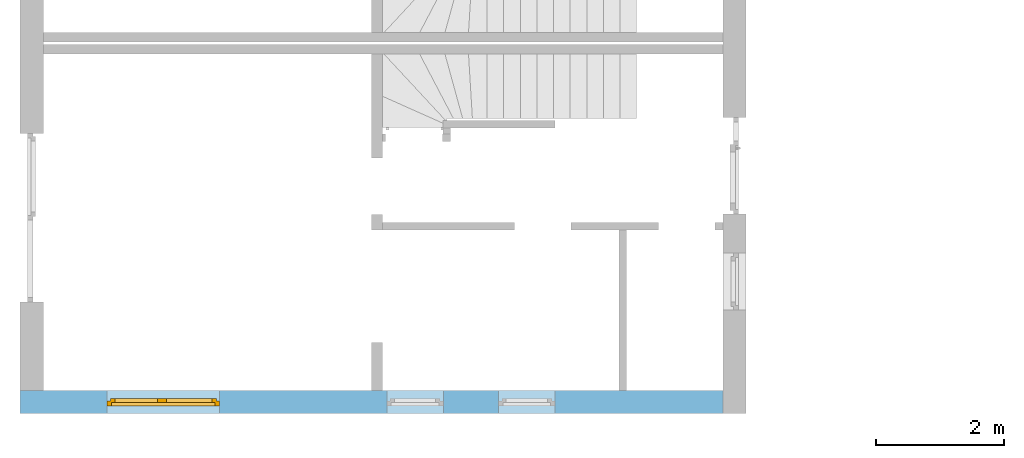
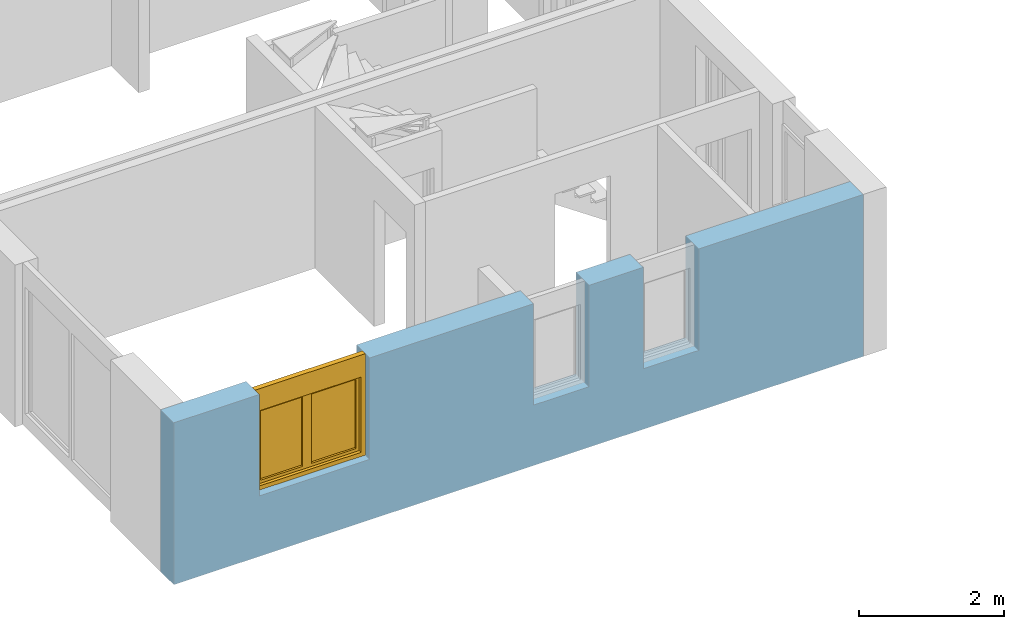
# One storey, part 5 of 41: 1 window, 3 openings, plus 1 element that does not belong to this part.
"""IFC2X3 building model written with IfcOpenShell, lengths in millimetres."""

from ifc_helpers import new_model, entity, si_unit, converted_unit, frame, frame_2d, origin, origin_with_axes, place, context, subcontext, project, spatial, rectangle, extrude, faceted_brep, material, layer, layer_set, layer_usage, type_object, element, fill, save


model = new_model("IFC2X3")

# Units and contexts
model_context = context("Model", 3, precision=1e-05, world=origin())
body_context = subcontext(model_context, "Body", "Model", "MODEL_VIEW")
ifc_project = project(units=[si_unit("LENGTHUNIT", "METRE", prefix="MILLI"), converted_unit("PLANEANGLEUNIT", "DEGREE", entity("IfcPlaneAngleMeasure", 0.0174532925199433), si_unit("PLANEANGLEUNIT", "RADIAN"), dimensions=[0, 0, 0, 0, 0, 0, 0]), si_unit("AREAUNIT", "SQUARE_METRE"), si_unit("VOLUMEUNIT", "CUBIC_METRE")], contexts=[model_context])

# Building, storey
building_placement = place(None, origin())
building = spatial("IfcBuilding", under=ifc_project, at=building_placement, Name="Gebäude", CompositionType="ELEMENT")
storey_placement = place(building_placement, frame((0.0, 0.0, -200.0), z_axis=(0.0, 0.0, 1.0), x_axis=(1.0, 0.0, 0.0)))
storey = spatial("IfcBuildingStorey", under=building, at=storey_placement, Name="EG.- Grundriss", CompositionType="ELEMENT", Elevation=-200.0)

# Wall, openings, window
ifc_material_1 = material(Name="Poroton")
ifc_layer = layer(ifc_material_1, 365.0000000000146)
ifc_layer_set = layer_set([ifc_layer])
ifc_layer_usage = layer_usage(ifc_layer_set, "AXIS2", "POSITIVE", 0.0)
wall_placement = place(storey_placement, frame((130992.7928067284, 125274.8877324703, 0.0), z_axis=(0.0, 0.0, 1.0), x_axis=(1.0, -2.749253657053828e-11, 0.0)))
wall = element("IfcWallStandardCase", 1, at=wall_placement, inside=storey, material=ifc_layer_usage, Name="<Unnamed Element>", context=body_context, shape_type="SweptSolid", body=[
    extrude(rectangle(XDim=10999.99999999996, YDim=365.0000000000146, at=frame_2d((5499.999999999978, 182.5000000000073), x_axis=(1.0, 0.0))), origin_with_axes(), (0.0, 0.0, 1.0), 2730.0),
])
opening_1_placement = place(wall_placement, frame((7489.999999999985, -3.477907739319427e-11, 1020.0), z_axis=(0.0, 1.0, 0.0), x_axis=(0.0, 0.0, 1.0)))
element("IfcOpeningElement", 2, at=opening_1_placement, cuts=wall, Name="Fensteröffnung", ObjectType="Opening", context=body_context, shape_type="SweptSolid", body=[
    extrude(rectangle(XDim=1710.0, YDim=885.0, at=frame_2d((855.0, 442.5), x_axis=(1.0, 0.0))), origin_with_axes(), (0.0, 0.0, 1.0), 365.0000000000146),
])
opening_2_placement = place(wall_placement, frame((5739.999999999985, -1.658918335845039e-11, 1020.0), z_axis=(0.0, 1.0, 0.0), x_axis=(0.0, 0.0, 1.0)))
element("IfcOpeningElement", 3, at=opening_2_placement, cuts=wall, Name="Fensteröffnung", ObjectType="Opening", context=body_context, shape_type="SweptSolid", body=[
    extrude(rectangle(XDim=1710.0, YDim=885.0, at=frame_2d((855.0, 442.5), x_axis=(1.0, 0.0))), origin_with_axes(), (0.0, 0.0, 1.0), 365.0000000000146),
])
opening_3_placement = place(wall_placement, frame((1364.999999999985, -7.494236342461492e-12, 1020.0), z_axis=(0.0, 1.0, 0.0), x_axis=(0.0, 0.0, 1.0)))
opening_3 = element("IfcOpeningElement", 4, at=opening_3_placement, cuts=wall, Name="Fensteröffnung", ObjectType="Opening", context=body_context, shape_type="SweptSolid", body=[
    extrude(rectangle(XDim=1710.0, YDim=1760.0, at=frame_2d((854.9999999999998, 880.0), x_axis=(1.0, 0.0))), origin_with_axes(), (0.0, 0.0, 1.0), 365.0000000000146),
])
ifc_material_2 = material()
window_style = type_object("IfcWindowStyle", Name="Fenster", ConstructionType="NOTDEFINED", OperationType="USERDEFINED", ParameterTakesPrecedence=False, Sizeable=False)
window_placement = place(opening_3_placement, frame((0.0, 0.0, 0.0), z_axis=(1.0, 0.0, 0.0), x_axis=(0.0, 1.0, 0.0)))
window = element("IfcWindow", 5, at=window_placement, inside=storey, type_object=window_style, material=ifc_material_2, Name="Fenster", OverallHeight=1710.0, OverallWidth=1760.0, context=body_context, shape_type="Brep", body=[
    faceted_brep([(-1.224022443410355e-08, 200.0000000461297, 1710.0), (-1.224022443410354e-08, 200.0000000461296, -2.449293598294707e-15), (69.99999998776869, 200.0000000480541, -2.449293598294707e-15), (69.99999998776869, 200.0000000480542, 1710.0), (-1.004082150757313e-08, 120.0000000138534, 2.449293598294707e-15), (-1.004082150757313e-08, 120.0000000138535, 1710.0), (69.99999998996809, 120.000000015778, 1710.0), (69.99999998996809, 120.0000000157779, 2.449293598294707e-15), (-1.224022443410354e-08, 200.0000000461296, -2.449293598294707e-15), (-1.224022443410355e-08, 200.0000000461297, 1710.0), (-1.004082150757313e-08, 120.0000000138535, 1710.0), (-1.004082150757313e-08, 120.0000000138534, 2.449293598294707e-15), (69.99999998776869, 200.0000000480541, -2.449293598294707e-15), (-1.224022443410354e-08, 200.0000000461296, -2.449293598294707e-15), (-1.004082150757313e-08, 120.0000000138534, 2.449293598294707e-15), (69.99999998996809, 120.0000000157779, 2.449293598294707e-15), (69.99999998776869, 200.0000000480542, 1710.0), (69.99999998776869, 200.0000000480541, -2.449293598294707e-15), (69.99999998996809, 120.0000000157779, 2.449293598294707e-15), (69.99999998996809, 120.000000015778, 1710.0), (-1.224022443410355e-08, 200.0000000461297, 1710.0), (69.99999998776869, 200.0000000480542, 1710.0), (69.99999998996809, 120.000000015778, 1710.0), (-1.004082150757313e-08, 120.0000000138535, 1710.0)], [[[0, 1, 2, 3]], [[4, 5, 6, 7]], [[8, 9, 10, 11]], [[12, 13, 14, 15]], [[16, 17, 18, 19]], [[20, 21, 22, 23]]], orient=[[False], [False], [False], [False], [False], [False]]),
    faceted_brep([(1689.999999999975, 200.0000000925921, 1710.0), (1689.999999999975, 200.000000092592, -2.449293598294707e-15), (1759.999999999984, 200.0000000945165, -2.449293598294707e-15), (1759.999999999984, 200.0000000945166, 1710.0), (1690.000000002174, 120.0000000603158, 2.449293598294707e-15), (1690.000000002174, 120.0000000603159, 1710.0), (1760.000000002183, 120.0000000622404, 1710.0), (1760.000000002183, 120.0000000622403, 2.449293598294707e-15), (1689.999999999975, 200.000000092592, -2.449293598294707e-15), (1689.999999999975, 200.0000000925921, 1710.0), (1690.000000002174, 120.0000000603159, 1710.0), (1690.000000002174, 120.0000000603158, 2.449293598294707e-15), (1759.999999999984, 200.0000000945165, -2.449293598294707e-15), (1689.999999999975, 200.000000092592, -2.449293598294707e-15), (1690.000000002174, 120.0000000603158, 2.449293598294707e-15), (1760.000000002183, 120.0000000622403, 2.449293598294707e-15), (1759.999999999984, 200.0000000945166, 1710.0), (1759.999999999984, 200.0000000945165, -2.449293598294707e-15), (1760.000000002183, 120.0000000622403, 2.449293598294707e-15), (1760.000000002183, 120.0000000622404, 1710.0), (1689.999999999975, 200.0000000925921, 1710.0), (1759.999999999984, 200.0000000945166, 1710.0), (1760.000000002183, 120.0000000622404, 1710.0), (1690.000000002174, 120.0000000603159, 1710.0)], [[[0, 1, 2, 3]], [[4, 5, 6, 7]], [[8, 9, 10, 11]], [[12, 13, 14, 15]], [[16, 17, 18, 19]], [[20, 21, 22, 23]]], orient=[[False], [False], [False], [False], [False], [False]]),
    faceted_brep([(69.99999998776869, 200.0000000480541, 70.0), (69.99999998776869, 200.0000000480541, -2.449293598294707e-15), (1689.999999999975, 200.000000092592, -2.449293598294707e-15), (1689.999999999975, 200.000000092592, 70.0), (69.99999998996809, 120.0000000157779, 2.449293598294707e-15), (69.99999998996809, 120.0000000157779, 70.0), (1690.000000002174, 120.0000000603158, 70.0), (1690.000000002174, 120.0000000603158, 2.449293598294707e-15), (69.99999998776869, 200.0000000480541, -2.449293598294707e-15), (69.99999998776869, 200.0000000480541, 70.0), (69.99999998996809, 120.0000000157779, 70.0), (69.99999998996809, 120.0000000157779, 2.449293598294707e-15), (1689.999999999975, 200.000000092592, -2.449293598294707e-15), (69.99999998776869, 200.0000000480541, -2.449293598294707e-15), (69.99999998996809, 120.0000000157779, 2.449293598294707e-15), (1690.000000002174, 120.0000000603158, 2.449293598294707e-15), (1689.999999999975, 200.000000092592, 70.0), (1689.999999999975, 200.000000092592, -2.449293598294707e-15), (1690.000000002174, 120.0000000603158, 2.449293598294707e-15), (1690.000000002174, 120.0000000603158, 70.0), (69.99999998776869, 200.0000000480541, 70.0), (1689.999999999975, 200.000000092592, 70.0), (1690.000000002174, 120.0000000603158, 70.0), (69.99999998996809, 120.0000000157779, 70.0)], [[[0, 1, 2, 3]], [[4, 5, 6, 7]], [[8, 9, 10, 11]], [[12, 13, 14, 15]], [[16, 17, 18, 19]], [[20, 21, 22, 23]]], orient=[[False], [False], [False], [False], [False], [False]]),
    faceted_brep([(69.99999998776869, 200.0000000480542, 1710.0), (69.99999998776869, 200.0000000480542, 1340.0), (1689.999999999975, 200.0000000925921, 1340.0), (1689.999999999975, 200.0000000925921, 1710.0), (69.99999998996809, 120.000000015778, 1340.0), (69.99999998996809, 120.000000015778, 1710.0), (1690.000000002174, 120.0000000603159, 1710.0), (1690.000000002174, 120.0000000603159, 1340.0), (69.99999998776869, 200.0000000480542, 1340.0), (69.99999998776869, 200.0000000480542, 1710.0), (69.99999998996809, 120.000000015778, 1710.0), (69.99999998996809, 120.000000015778, 1340.0), (1689.999999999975, 200.0000000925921, 1340.0), (69.99999998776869, 200.0000000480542, 1340.0), (69.99999998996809, 120.000000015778, 1340.0), (1690.000000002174, 120.0000000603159, 1340.0), (1689.999999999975, 200.0000000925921, 1710.0), (1689.999999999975, 200.0000000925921, 1340.0), (1690.000000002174, 120.0000000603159, 1340.0), (1690.000000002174, 120.0000000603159, 1710.0), (69.99999998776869, 200.0000000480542, 1710.0), (1689.999999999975, 200.0000000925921, 1710.0), (1690.000000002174, 120.0000000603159, 1710.0), (69.99999998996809, 120.000000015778, 1710.0)], [[[0, 1, 2, 3]], [[4, 5, 6, 7]], [[8, 9, 10, 11]], [[12, 13, 14, 15]], [[16, 17, 18, 19]], [[20, 21, 22, 23]]], orient=[[False], [False], [False], [False], [False], [False]]),
    faceted_brep([(49.99999998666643, 240.0000000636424, 1360.0), (49.99999998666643, 240.0000000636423, 50.0), (119.9999999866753, 240.0000000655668, 50.0), (119.9999999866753, 240.0000000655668, 1360.0), (49.99999998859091, 170.0000000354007, 50.00000000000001), (49.99999998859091, 170.0000000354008, 1360.0), (119.9999999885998, 170.0000000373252, 1360.0), (119.9999999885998, 170.0000000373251, 50.00000000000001), (49.99999998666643, 240.0000000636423, 50.0), (49.99999998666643, 240.0000000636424, 1360.0), (49.99999998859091, 170.0000000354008, 1360.0), (49.99999998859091, 170.0000000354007, 50.00000000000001), (119.9999999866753, 240.0000000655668, 50.0), (49.99999998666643, 240.0000000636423, 50.0), (49.99999998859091, 170.0000000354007, 50.00000000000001), (119.9999999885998, 170.0000000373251, 50.00000000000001), (119.9999999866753, 240.0000000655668, 1360.0), (119.9999999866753, 240.0000000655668, 50.0), (119.9999999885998, 170.0000000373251, 50.00000000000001), (119.9999999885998, 170.0000000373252, 1360.0), (49.99999998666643, 240.0000000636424, 1360.0), (119.9999999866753, 240.0000000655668, 1360.0), (119.9999999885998, 170.0000000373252, 1360.0), (49.99999998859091, 170.0000000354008, 1360.0)], [[[0, 1, 2, 3]], [[4, 5, 6, 7]], [[8, 9, 10, 11]], [[12, 13, 14, 15]], [[16, 17, 18, 19]], [[20, 21, 22, 23]]], orient=[[False], [False], [False], [False], [False], [False]]),
    faceted_brep([(789.4999999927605, 240.0000000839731, 1360.0), (789.4999999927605, 240.000000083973, 50.0), (859.4999999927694, 240.0000000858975, 50.0), (859.4999999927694, 240.0000000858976, 1360.0), (789.499999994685, 170.0000000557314, 50.00000000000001), (789.499999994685, 170.0000000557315, 1360.0), (859.4999999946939, 170.0000000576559, 1360.0), (859.4999999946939, 170.0000000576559, 50.00000000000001), (789.4999999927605, 240.000000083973, 50.0), (789.4999999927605, 240.0000000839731, 1360.0), (789.499999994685, 170.0000000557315, 1360.0), (789.499999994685, 170.0000000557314, 50.00000000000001), (859.4999999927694, 240.0000000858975, 50.0), (789.4999999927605, 240.000000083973, 50.0), (789.499999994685, 170.0000000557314, 50.00000000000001), (859.4999999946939, 170.0000000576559, 50.00000000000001), (859.4999999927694, 240.0000000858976, 1360.0), (859.4999999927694, 240.0000000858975, 50.0), (859.4999999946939, 170.0000000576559, 50.00000000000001), (859.4999999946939, 170.0000000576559, 1360.0), (789.4999999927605, 240.0000000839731, 1360.0), (859.4999999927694, 240.0000000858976, 1360.0), (859.4999999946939, 170.0000000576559, 1360.0), (789.499999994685, 170.0000000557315, 1360.0)], [[[0, 1, 2, 3]], [[4, 5, 6, 7]], [[8, 9, 10, 11]], [[12, 13, 14, 15]], [[16, 17, 18, 19]], [[20, 21, 22, 23]]], orient=[[False], [False], [False], [False], [False], [False]]),
    faceted_brep([(119.9999999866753, 240.0000000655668, 120.0), (119.9999999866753, 240.0000000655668, 50.0), (789.4999999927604, 240.000000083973, 50.0), (789.4999999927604, 240.000000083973, 120.0), (119.9999999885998, 170.0000000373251, 50.00000000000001), (119.9999999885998, 170.0000000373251, 120.0), (789.4999999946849, 170.0000000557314, 120.0), (789.4999999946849, 170.0000000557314, 50.00000000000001), (119.9999999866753, 240.0000000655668, 50.0), (119.9999999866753, 240.0000000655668, 120.0), (119.9999999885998, 170.0000000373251, 120.0), (119.9999999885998, 170.0000000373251, 50.00000000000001), (789.4999999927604, 240.000000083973, 50.0), (119.9999999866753, 240.0000000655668, 50.0), (119.9999999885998, 170.0000000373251, 50.00000000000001), (789.4999999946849, 170.0000000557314, 50.00000000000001), (789.4999999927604, 240.000000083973, 120.0), (789.4999999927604, 240.000000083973, 50.0), (789.4999999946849, 170.0000000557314, 50.00000000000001), (789.4999999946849, 170.0000000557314, 120.0), (119.9999999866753, 240.0000000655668, 120.0), (789.4999999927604, 240.000000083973, 120.0), (789.4999999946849, 170.0000000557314, 120.0), (119.9999999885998, 170.0000000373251, 120.0)], [[[0, 1, 2, 3]], [[4, 5, 6, 7]], [[8, 9, 10, 11]], [[12, 13, 14, 15]], [[16, 17, 18, 19]], [[20, 21, 22, 23]]], orient=[[False], [False], [False], [False], [False], [False]]),
    faceted_brep([(119.9999999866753, 240.0000000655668, 1360.0), (119.9999999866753, 240.0000000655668, 1290.0), (789.4999999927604, 240.0000000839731, 1290.0), (789.4999999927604, 240.0000000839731, 1360.0), (119.9999999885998, 170.0000000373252, 1290.0), (119.9999999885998, 170.0000000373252, 1360.0), (789.4999999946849, 170.0000000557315, 1360.0), (789.4999999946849, 170.0000000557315, 1290.0), (119.9999999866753, 240.0000000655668, 1290.0), (119.9999999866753, 240.0000000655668, 1360.0), (119.9999999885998, 170.0000000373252, 1360.0), (119.9999999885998, 170.0000000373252, 1290.0), (789.4999999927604, 240.0000000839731, 1290.0), (119.9999999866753, 240.0000000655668, 1290.0), (119.9999999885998, 170.0000000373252, 1290.0), (789.4999999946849, 170.0000000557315, 1290.0), (789.4999999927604, 240.0000000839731, 1360.0), (789.4999999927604, 240.0000000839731, 1290.0), (789.4999999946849, 170.0000000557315, 1290.0), (789.4999999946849, 170.0000000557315, 1360.0), (119.9999999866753, 240.0000000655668, 1360.0), (789.4999999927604, 240.0000000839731, 1360.0), (789.4999999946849, 170.0000000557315, 1360.0), (119.9999999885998, 170.0000000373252, 1360.0)], [[[0, 1, 2, 3]], [[4, 5, 6, 7]], [[8, 9, 10, 11]], [[12, 13, 14, 15]], [[16, 17, 18, 19]], [[20, 21, 22, 23]]], orient=[[False], [False], [False], [False], [False], [False]]),
    faceted_brep([(860.4999999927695, 240.0000000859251, 1360.0), (860.4999999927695, 240.000000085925, 50.0), (930.4999999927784, 240.0000000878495, 50.0), (930.4999999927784, 240.0000000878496, 1360.0), (860.499999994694, 170.0000000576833, 50.00000000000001), (860.499999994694, 170.0000000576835, 1360.0), (930.4999999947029, 170.0000000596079, 1360.0), (930.4999999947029, 170.0000000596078, 50.00000000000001), (860.4999999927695, 240.000000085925, 50.0), (860.4999999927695, 240.0000000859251, 1360.0), (860.499999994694, 170.0000000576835, 1360.0), (860.499999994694, 170.0000000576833, 50.00000000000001), (930.4999999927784, 240.0000000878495, 50.0), (860.4999999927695, 240.000000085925, 50.0), (860.499999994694, 170.0000000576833, 50.00000000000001), (930.4999999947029, 170.0000000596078, 50.00000000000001), (930.4999999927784, 240.0000000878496, 1360.0), (930.4999999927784, 240.0000000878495, 50.0), (930.4999999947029, 170.0000000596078, 50.00000000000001), (930.4999999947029, 170.0000000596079, 1360.0), (860.4999999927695, 240.0000000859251, 1360.0), (930.4999999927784, 240.0000000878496, 1360.0), (930.4999999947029, 170.0000000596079, 1360.0), (860.499999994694, 170.0000000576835, 1360.0)], [[[0, 1, 2, 3]], [[4, 5, 6, 7]], [[8, 9, 10, 11]], [[12, 13, 14, 15]], [[16, 17, 18, 19]], [[20, 21, 22, 23]]], orient=[[False], [False], [False], [False], [False], [False]]),
    faceted_brep([(1639.999999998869, 240.0000001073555, 1360.0), (1639.999999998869, 240.0000001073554, 50.0), (1709.999999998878, 240.0000001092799, 50.0), (1709.999999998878, 240.00000010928, 1360.0), (1640.000000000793, 170.0000000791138, 50.00000000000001), (1640.000000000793, 170.0000000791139, 1360.0), (1710.000000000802, 170.0000000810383, 1360.0), (1710.000000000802, 170.0000000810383, 50.00000000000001), (1639.999999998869, 240.0000001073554, 50.0), (1639.999999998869, 240.0000001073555, 1360.0), (1640.000000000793, 170.0000000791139, 1360.0), (1640.000000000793, 170.0000000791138, 50.00000000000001), (1709.999999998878, 240.0000001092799, 50.0), (1639.999999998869, 240.0000001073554, 50.0), (1640.000000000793, 170.0000000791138, 50.00000000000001), (1710.000000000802, 170.0000000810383, 50.00000000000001), (1709.999999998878, 240.00000010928, 1360.0), (1709.999999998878, 240.0000001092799, 50.0), (1710.000000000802, 170.0000000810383, 50.00000000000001), (1710.000000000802, 170.0000000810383, 1360.0), (1639.999999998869, 240.0000001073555, 1360.0), (1709.999999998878, 240.00000010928, 1360.0), (1710.000000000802, 170.0000000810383, 1360.0), (1640.000000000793, 170.0000000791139, 1360.0)], [[[0, 1, 2, 3]], [[4, 5, 6, 7]], [[8, 9, 10, 11]], [[12, 13, 14, 15]], [[16, 17, 18, 19]], [[20, 21, 22, 23]]], orient=[[False], [False], [False], [False], [False], [False]]),
    faceted_brep([(930.4999999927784, 240.0000000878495, 120.0), (930.4999999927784, 240.0000000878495, 50.0), (1639.999999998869, 240.0000001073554, 50.0), (1639.999999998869, 240.0000001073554, 120.0), (930.4999999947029, 170.0000000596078, 50.00000000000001), (930.4999999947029, 170.0000000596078, 120.0), (1640.000000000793, 170.0000000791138, 120.0), (1640.000000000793, 170.0000000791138, 50.00000000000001), (930.4999999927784, 240.0000000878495, 50.0), (930.4999999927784, 240.0000000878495, 120.0), (930.4999999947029, 170.0000000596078, 120.0), (930.4999999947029, 170.0000000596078, 50.00000000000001), (1639.999999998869, 240.0000001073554, 50.0), (930.4999999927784, 240.0000000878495, 50.0), (930.4999999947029, 170.0000000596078, 50.00000000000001), (1640.000000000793, 170.0000000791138, 50.00000000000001), (1639.999999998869, 240.0000001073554, 120.0), (1639.999999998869, 240.0000001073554, 50.0), (1640.000000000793, 170.0000000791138, 50.00000000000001), (1640.000000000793, 170.0000000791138, 120.0), (930.4999999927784, 240.0000000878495, 120.0), (1639.999999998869, 240.0000001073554, 120.0), (1640.000000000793, 170.0000000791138, 120.0), (930.4999999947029, 170.0000000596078, 120.0)], [[[0, 1, 2, 3]], [[4, 5, 6, 7]], [[8, 9, 10, 11]], [[12, 13, 14, 15]], [[16, 17, 18, 19]], [[20, 21, 22, 23]]], orient=[[False], [False], [False], [False], [False], [False]]),
    faceted_brep([(930.4999999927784, 240.0000000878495, 1360.0), (930.4999999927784, 240.0000000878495, 1290.0), (1639.999999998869, 240.0000001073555, 1290.0), (1639.999999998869, 240.0000001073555, 1360.0), (930.4999999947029, 170.0000000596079, 1290.0), (930.4999999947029, 170.0000000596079, 1360.0), (1640.000000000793, 170.0000000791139, 1360.0), (1640.000000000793, 170.0000000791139, 1290.0), (930.4999999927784, 240.0000000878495, 1290.0), (930.4999999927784, 240.0000000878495, 1360.0), (930.4999999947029, 170.0000000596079, 1360.0), (930.4999999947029, 170.0000000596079, 1290.0), (1639.999999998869, 240.0000001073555, 1290.0), (930.4999999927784, 240.0000000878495, 1290.0), (930.4999999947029, 170.0000000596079, 1290.0), (1640.000000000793, 170.0000000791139, 1290.0), (1639.999999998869, 240.0000001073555, 1360.0), (1639.999999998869, 240.0000001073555, 1290.0), (1640.000000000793, 170.0000000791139, 1290.0), (1640.000000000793, 170.0000000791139, 1360.0), (930.4999999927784, 240.0000000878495, 1360.0), (1639.999999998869, 240.0000001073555, 1360.0), (1640.000000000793, 170.0000000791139, 1360.0), (930.4999999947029, 170.0000000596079, 1360.0)], [[[0, 1, 2, 3]], [[4, 5, 6, 7]], [[8, 9, 10, 11]], [[12, 13, 14, 15]], [[16, 17, 18, 19]], [[20, 21, 22, 23]]], orient=[[False], [False], [False], [False], [False], [False]]),
    faceted_brep([(119.9999999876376, 205.000000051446, 120.0), (789.4999999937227, 205.0000000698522, 120.0), (789.4999999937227, 205.0000000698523, 1290.0), (119.9999999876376, 205.0000000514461, 1290.0), (119.9999999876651, 204.000000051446, 120.0), (119.9999999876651, 204.0000000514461, 1290.0), (789.4999999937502, 204.0000000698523, 1290.0), (789.4999999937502, 204.0000000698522, 120.0), (119.9999999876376, 205.000000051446, 120.0), (119.9999999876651, 204.000000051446, 120.0), (789.4999999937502, 204.0000000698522, 120.0), (789.4999999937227, 205.0000000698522, 120.0), (789.4999999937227, 205.0000000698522, 120.0), (789.4999999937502, 204.0000000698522, 120.0), (789.4999999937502, 204.0000000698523, 1290.0), (789.4999999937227, 205.0000000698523, 1290.0), (789.4999999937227, 205.0000000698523, 1290.0), (789.4999999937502, 204.0000000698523, 1290.0), (119.9999999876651, 204.0000000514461, 1290.0), (119.9999999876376, 205.0000000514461, 1290.0), (119.9999999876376, 205.0000000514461, 1290.0), (119.9999999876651, 204.0000000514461, 1290.0), (119.9999999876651, 204.000000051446, 120.0), (119.9999999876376, 205.000000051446, 120.0)], [[[0, 1, 2, 3]], [[4, 5, 6, 7]], [[8, 9, 10, 11]], [[12, 13, 14, 15]], [[16, 17, 18, 19]], [[20, 21, 22, 23]]], orient=[[False], [False], [False], [False], [False], [False]]),
    faceted_brep([(930.4999999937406, 205.0000000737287, 120.0), (1639.999999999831, 205.0000000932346, 120.0), (1639.999999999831, 205.0000000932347, 1290.0), (930.4999999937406, 205.0000000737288, 1290.0), (930.4999999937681, 204.0000000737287, 120.0), (930.4999999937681, 204.0000000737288, 1290.0), (1639.999999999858, 204.0000000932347, 1290.0), (1639.999999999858, 204.0000000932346, 120.0), (930.4999999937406, 205.0000000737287, 120.0), (930.4999999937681, 204.0000000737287, 120.0), (1639.999999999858, 204.0000000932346, 120.0), (1639.999999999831, 205.0000000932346, 120.0), (1639.999999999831, 205.0000000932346, 120.0), (1639.999999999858, 204.0000000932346, 120.0), (1639.999999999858, 204.0000000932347, 1290.0), (1639.999999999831, 205.0000000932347, 1290.0), (1639.999999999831, 205.0000000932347, 1290.0), (1639.999999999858, 204.0000000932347, 1290.0), (930.4999999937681, 204.0000000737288, 1290.0), (930.4999999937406, 205.0000000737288, 1290.0), (930.4999999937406, 205.0000000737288, 1290.0), (930.4999999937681, 204.0000000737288, 1290.0), (930.4999999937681, 204.0000000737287, 120.0), (930.4999999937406, 205.0000000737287, 120.0)], [[[0, 1, 2, 3]], [[4, 5, 6, 7]], [[8, 9, 10, 11]], [[12, 13, 14, 15]], [[16, 17, 18, 19]], [[20, 21, 22, 23]]], orient=[[False], [False], [False], [False], [False], [False]]),
])
fill(opening_3, window)

save(model, "model.ifc")
